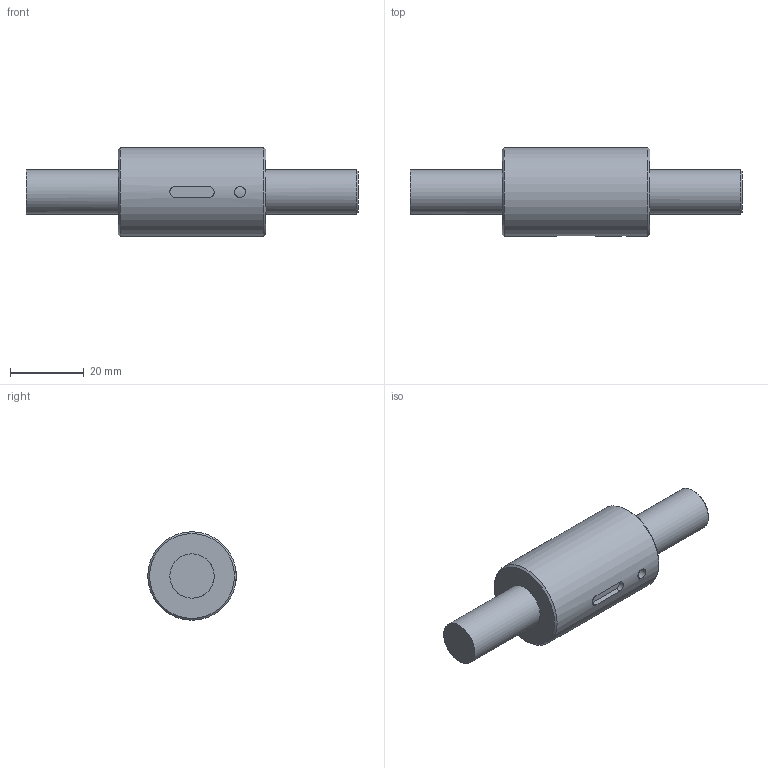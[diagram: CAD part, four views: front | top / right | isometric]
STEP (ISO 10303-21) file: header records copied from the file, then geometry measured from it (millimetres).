
FILE_DESCRIPTION (( 'STEP AP203' ), '1' );
FILE_NAME ('SCNH1205.STEP', '2023-08-16T07:43:53', ( '' ), ( '' ), 'SwSTEP 2.0', 'SolidWorks 2022', '' );
FILE_SCHEMA (( 'CONFIG_CONTROL_DESIGN' ));
Length unit declared in the file: millimetre
Products named in the file (1): SCNH1205
Bounding box: 90 x 24 x 24 mm (x, y, z)
Volume: 23634.7 mm3; surface area: 8847.2 mm2
Topology: 2 solids, 2 shells, 17 faces, 34 edges, 22 vertices
Faces by surface type: plane 7, cylinder 5, cone 3, bspline 2
Full cylindrical faces by diameter (mm): 12 x2, 24 x1
Entity records: 703 total; most frequent: CARTESIAN_POINT 300, DIRECTION 64, ORIENTED_EDGE 54, EDGE_LOOP 28, AXIS2_PLACEMENT_3D 27, EDGE_CURVE 27, VERTEX_POINT 21, FACE_OUTER_BOUND 20
